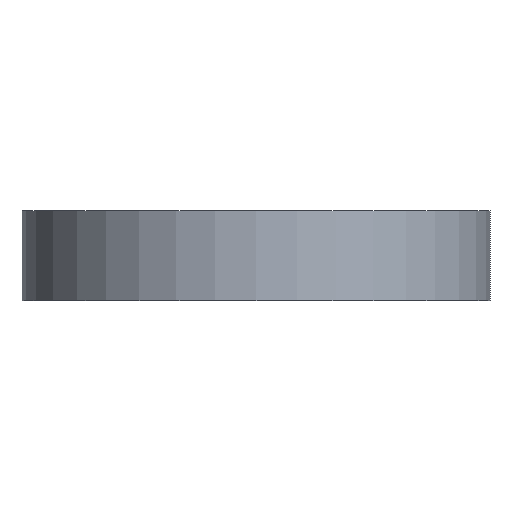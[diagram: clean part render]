
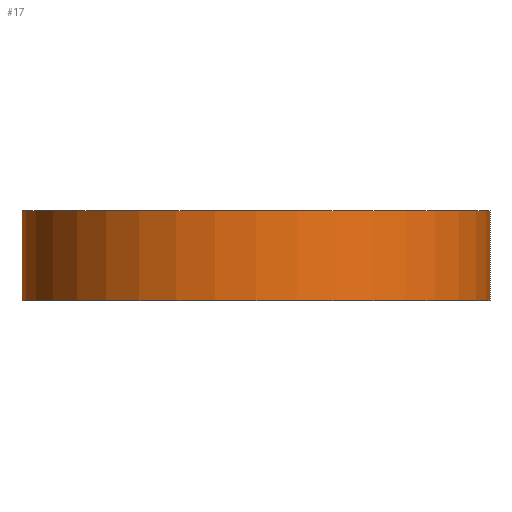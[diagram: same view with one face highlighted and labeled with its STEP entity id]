
A CAD part, front view. The second image highlights one B-rep face of the part: STEP entity #17.
In plain terms, the highlighted cylindrical face has radius 6.5 mm (diameter 13 mm), a full revolution.
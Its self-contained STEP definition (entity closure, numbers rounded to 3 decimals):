
#17 = ADVANCED_FACE('',(#18),#31,.T.);
#18 = FACE_BOUND('',#19,.T.);
#19 = EDGE_LOOP('',(#20,#54,#77,#104));
#20 = ORIENTED_EDGE('',*,*,#21,.F.);
#21 = EDGE_CURVE('',#22,#22,#24,.T.);
#22 = VERTEX_POINT('',#23);
#23 = CARTESIAN_POINT('',(6.5,0.,-10.45));
#24 = SURFACE_CURVE('',#25,(#30,#42),.PCURVE_S1.);
#25 = CIRCLE('',#26,6.5);
#26 = AXIS2_PLACEMENT_3D('',#27,#28,#29);
#27 = CARTESIAN_POINT('',(0.,0.,-10.45));
#28 = DIRECTION('',(0.,0.,1.));
#29 = DIRECTION('',(1.,0.,-0.));
#30 = PCURVE('',#31,#36);
#31 = CYLINDRICAL_SURFACE('',#32,6.5);
#32 = AXIS2_PLACEMENT_3D('',#33,#34,#35);
#33 = CARTESIAN_POINT('',(0.,0.,-12.95));
#34 = DIRECTION('',(0.,0.,1.));
#35 = DIRECTION('',(1.,0.,-0.));
#36 = DEFINITIONAL_REPRESENTATION('',(#37),#41);
#37 = LINE('',#38,#39);
#38 = CARTESIAN_POINT('',(0.,2.5));
#39 = VECTOR('',#40,1.);
#40 = DIRECTION('',(1.,0.));
#41 = ( GEOMETRIC_REPRESENTATION_CONTEXT(2) 
PARAMETRIC_REPRESENTATION_CONTEXT() REPRESENTATION_CONTEXT('2D SPACE',''
  ) );
#42 = PCURVE('',#43,#48);
#43 = PLANE('',#44);
#44 = AXIS2_PLACEMENT_3D('',#45,#46,#47);
#45 = CARTESIAN_POINT('',(0.,0.,-10.45));
#46 = DIRECTION('',(0.,0.,1.));
#47 = DIRECTION('',(1.,0.,-0.));
#48 = DEFINITIONAL_REPRESENTATION('',(#49),#53);
#49 = CIRCLE('',#50,6.5);
#50 = AXIS2_PLACEMENT_2D('',#51,#52);
#51 = CARTESIAN_POINT('',(0.,0.));
#52 = DIRECTION('',(1.,0.));
#53 = ( GEOMETRIC_REPRESENTATION_CONTEXT(2) 
PARAMETRIC_REPRESENTATION_CONTEXT() REPRESENTATION_CONTEXT('2D SPACE',''
  ) );
#54 = ORIENTED_EDGE('',*,*,#55,.F.);
#55 = EDGE_CURVE('',#56,#22,#58,.T.);
#56 = VERTEX_POINT('',#57);
#57 = CARTESIAN_POINT('',(6.5,0.,-12.95));
#58 = SEAM_CURVE('',#59,(#63,#70),.PCURVE_S1.);
#59 = LINE('',#60,#61);
#60 = CARTESIAN_POINT('',(6.5,0.,-12.95));
#61 = VECTOR('',#62,1.);
#62 = DIRECTION('',(0.,0.,1.));
#63 = PCURVE('',#31,#64);
#64 = DEFINITIONAL_REPRESENTATION('',(#65),#69);
#65 = LINE('',#66,#67);
#66 = CARTESIAN_POINT('',(6.283,-0.));
#67 = VECTOR('',#68,1.);
#68 = DIRECTION('',(0.,1.));
#69 = ( GEOMETRIC_REPRESENTATION_CONTEXT(2) 
PARAMETRIC_REPRESENTATION_CONTEXT() REPRESENTATION_CONTEXT('2D SPACE',''
  ) );
#70 = PCURVE('',#31,#71);
#71 = DEFINITIONAL_REPRESENTATION('',(#72),#76);
#72 = LINE('',#73,#74);
#73 = CARTESIAN_POINT('',(0.,-0.));
#74 = VECTOR('',#75,1.);
#75 = DIRECTION('',(0.,1.));
#76 = ( GEOMETRIC_REPRESENTATION_CONTEXT(2) 
PARAMETRIC_REPRESENTATION_CONTEXT() REPRESENTATION_CONTEXT('2D SPACE',''
  ) );
#77 = ORIENTED_EDGE('',*,*,#78,.T.);
#78 = EDGE_CURVE('',#56,#56,#79,.T.);
#79 = SURFACE_CURVE('',#80,(#85,#92),.PCURVE_S1.);
#80 = CIRCLE('',#81,6.5);
#81 = AXIS2_PLACEMENT_3D('',#82,#83,#84);
#82 = CARTESIAN_POINT('',(0.,0.,-12.95));
#83 = DIRECTION('',(0.,0.,1.));
#84 = DIRECTION('',(1.,0.,-0.));
#85 = PCURVE('',#31,#86);
#86 = DEFINITIONAL_REPRESENTATION('',(#87),#91);
#87 = LINE('',#88,#89);
#88 = CARTESIAN_POINT('',(0.,0.));
#89 = VECTOR('',#90,1.);
#90 = DIRECTION('',(1.,0.));
#91 = ( GEOMETRIC_REPRESENTATION_CONTEXT(2) 
PARAMETRIC_REPRESENTATION_CONTEXT() REPRESENTATION_CONTEXT('2D SPACE',''
  ) );
#92 = PCURVE('',#93,#98);
#93 = PLANE('',#94);
#94 = AXIS2_PLACEMENT_3D('',#95,#96,#97);
#95 = CARTESIAN_POINT('',(0.,0.,-12.95));
#96 = DIRECTION('',(0.,0.,1.));
#97 = DIRECTION('',(1.,0.,-0.));
#98 = DEFINITIONAL_REPRESENTATION('',(#99),#103);
#99 = CIRCLE('',#100,6.5);
#100 = AXIS2_PLACEMENT_2D('',#101,#102);
#101 = CARTESIAN_POINT('',(0.,0.));
#102 = DIRECTION('',(1.,0.));
#103 = ( GEOMETRIC_REPRESENTATION_CONTEXT(2) 
PARAMETRIC_REPRESENTATION_CONTEXT() REPRESENTATION_CONTEXT('2D SPACE',''
  ) );
#104 = ORIENTED_EDGE('',*,*,#55,.T.);
